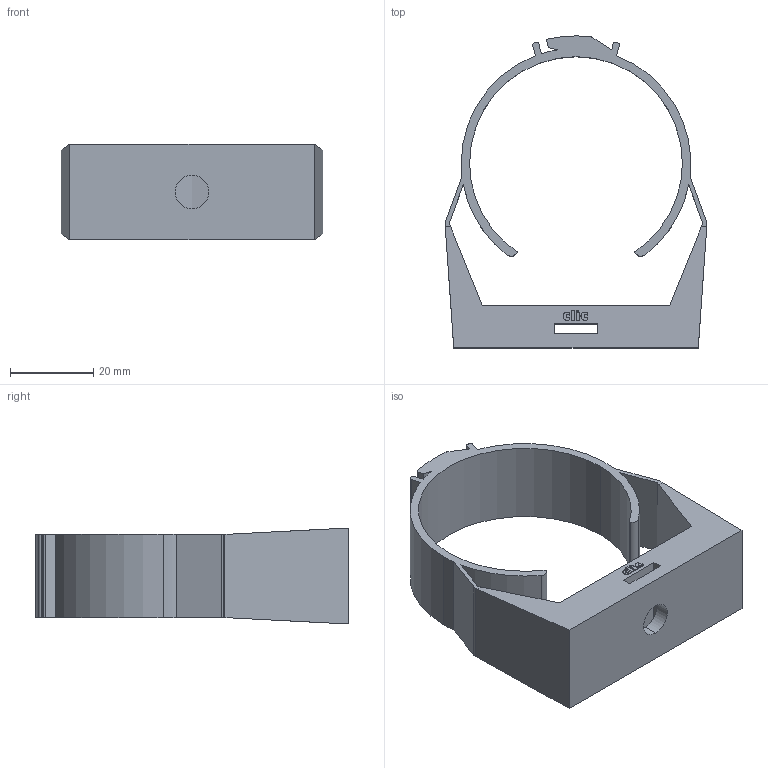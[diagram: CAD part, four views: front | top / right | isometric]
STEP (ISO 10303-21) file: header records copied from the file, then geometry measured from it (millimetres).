
FILE_DESCRIPTION (( 'STEP AP214' ), '1' );
FILE_NAME ('CLIC51.STEP', '2021-10-11T09:44:35', ( '' ), ( '' ), 'SwSTEP 2.0', 'SolidWorks 2021', '' );
FILE_SCHEMA (( 'AUTOMOTIVE_DESIGN' ));
Length unit declared in the file: millimetre
Products named in the file (1): CLIC51
Bounding box: 62.75 x 74.8 x 23 mm (x, y, z)
Volume: 23052.3 mm3; surface area: 13888.4 mm2
Topology: 1 solids, 1 shells, 118 faces, 324 edges, 216 vertices
Faces by surface type: plane 61, cylinder 29, bspline 28
Entity records: 3860 total; most frequent: CARTESIAN_POINT 1023, ORIENTED_EDGE 648, DIRECTION 508, EDGE_CURVE 324, VERTEX_POINT 216, LINE 210, VECTOR 210, AXIS2_PLACEMENT_3D 149
